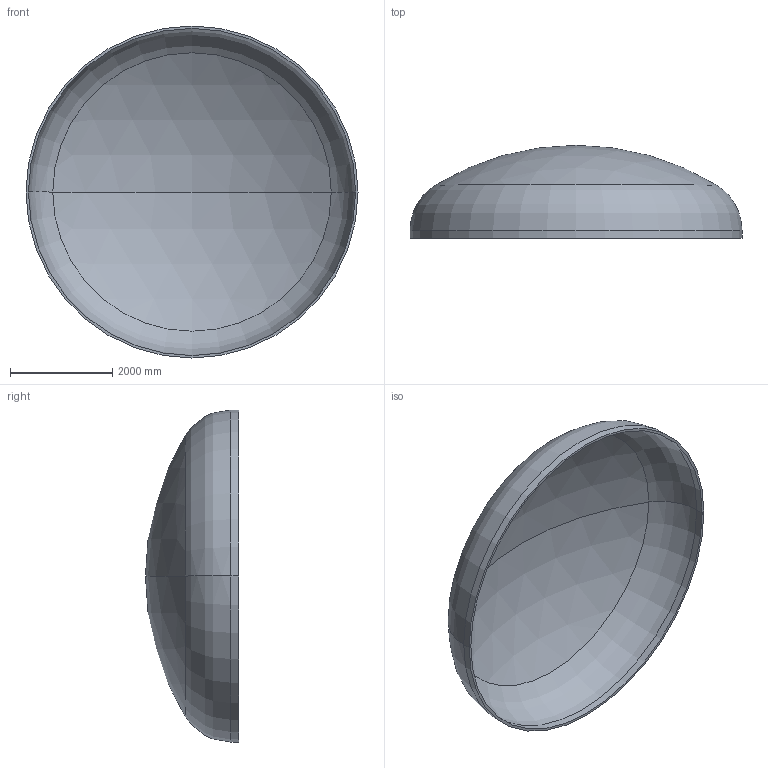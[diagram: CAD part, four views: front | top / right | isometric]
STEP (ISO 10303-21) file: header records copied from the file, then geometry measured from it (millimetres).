
FILE_DESCRIPTION (( 'STEP AP203' ), '1' );
FILE_NAME ('DIN 28013 Korbbogenform_-_Boden DIN 28013 - 6500 x 150 - I - s=48.step', '2016-07-04T10:42:17', ( '' ), ( '' ), 'SwSTEP 2.0', 'SolidWorks 2013', '' );
FILE_SCHEMA (( 'CONFIG_CONTROL_DESIGN' ));
Length unit declared in the file: millimetre
Products named in the file (1): DIN 28013 Korbbogenform_-_Boden DIN 28013 - 6500 x 150 - I - s=48
Bounding box: 6500 x 1821.52 x 6500 mm (x, y, z)
Volume: 2330088270.7 mm3; surface area: 98064738.3 mm2
Topology: 1 solids, 1 shells, 13 faces, 24 edges, 14 vertices
Faces by surface type: torus 4, cylinder 4, sphere 4, plane 1
Entity records: 407 total; most frequent: DIRECTION 72, CARTESIAN_POINT 52, ORIENTED_EDGE 48, AXIS2_PLACEMENT_3D 34, EDGE_CURVE 24, CIRCLE 20, VERTEX_POINT 14, EDGE_LOOP 14
